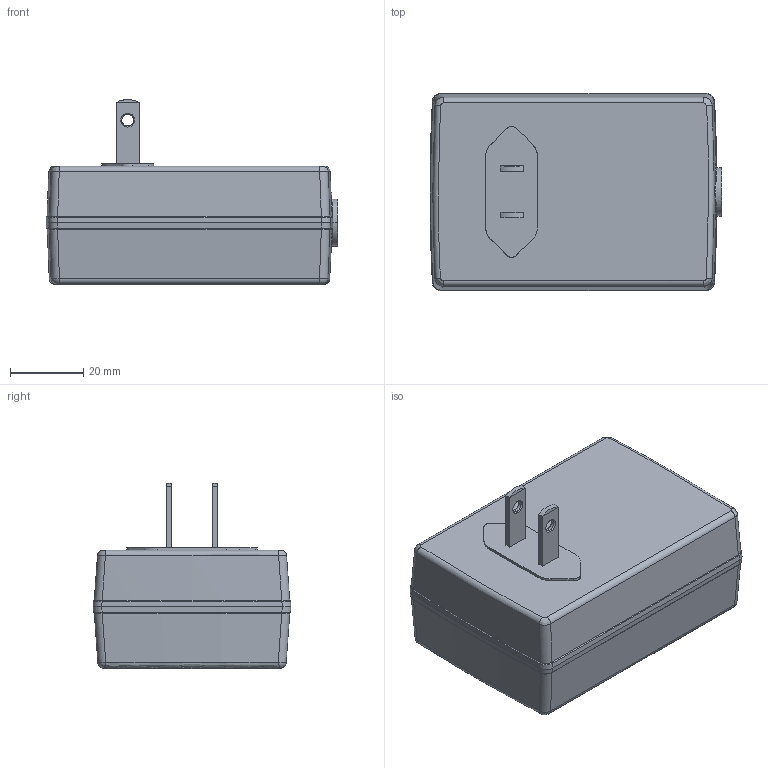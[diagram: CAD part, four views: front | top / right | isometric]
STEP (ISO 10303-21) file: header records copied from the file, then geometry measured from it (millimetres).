
FILE_DESCRIPTION(('Creo Elements/Direct Modeling STEP Export'),'2;1');
FILE_NAME('GSM36U-STEP.stp','2020-08-13T16:41:08',(''),(''),'PTC Creo Elements/Direct Modeling STEP processor for AP214 (Solid Model)','PTC Creo Elements/Direct Modeling 19.0E 27-Jun-2016 (C) Parametric Technology GmbH','');
FILE_SCHEMA(('AUTOMOTIVE_DESIGN { 1 0 10303 214 1 1 1 1 }'));
Length unit declared in the file: millimetre
Products named in the file (28): Q1.PRT; Q1.PRT.1; PIN2-2.PRT; HS-524; CX1.PRT; HS525; PIN2-2.PRT.1; HS-525; CX2.PRT; PCB1; PCB; PART; GSM36; U-_X2_4E0A84CB_X0_-471830_PRT.PRT; U-LANS-476360_PRT.PRT; ADMI1F2EVRF4_2_PRT_PRT.PRT; _X2_4E0A84CB_X0__ASM.ASM; EU-TYPE_STP.ASM; 36-T.stp; PRT0004_1_1_PRT.PRT; PRT0004_1_2_PRT.PRT; 装配1; JTL-15064_MINGWEI-1XX3GSM36U-D_.prt; JTL-15064_MINGWEI-1XX3GSM36U-D.stp; GSM36U-D; CASE; GSM36U
Assembly tree (27 placements, depth 6):
  GSM36U
    CASE
      GSM36U-D
        JTL-15064_MINGWEI-1XX3GSM36U-D.stp
          JTL-15064_MINGWEI-1XX3GSM36U-D_.prt
        装配1
          PRT0004_1_2_PRT.PRT
          PRT0004_1_1_PRT.PRT
      36-T.stp
        EU-TYPE_STP.ASM
          _X2_4E0A84CB_X0__ASM.ASM
            ADMI1F2EVRF4_2_PRT_PRT.PRT
            U-LANS-476360_PRT.PRT
            U-_X2_4E0A84CB_X0_-471830_PRT.PRT
    GSM36
      PART
        PCB
          PCB1
        CX2.PRT
        HS-525
          PIN2-2.PRT.1
          HS525
        CX1.PRT
        HS-524
          HS-524
          PIN2-2.PRT
        Q1.PRT.1
        Q1.PRT
Bounding box: 79.89 x 54.13 x 50.63 mm (x, y, z)
Volume: 52427.5 mm3; surface area: 54295.2 mm2
Topology: 15 solids, 15 shells, 1140 faces, 2979 edges, 2005 vertices
Faces by surface type: plane 491, cone 272, cylinder 167, torus 146, bspline 41, extrusion 13, revolution 10
Entity records: 45375 total; most frequent: CARTESIAN_POINT 10008, DIRECTION 6041, ORIENTED_EDGE 5958, EDGE_CURVE 2979, AXIS2_PLACEMENT_3D 2385, VERTEX_POINT 2005, EDGE_LOOP 1354, VECTOR 1261
